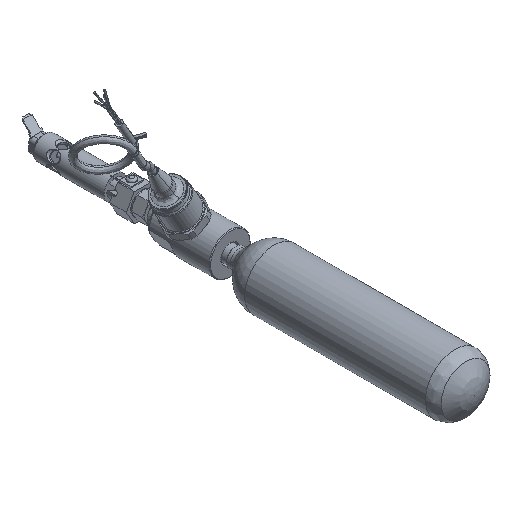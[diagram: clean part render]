
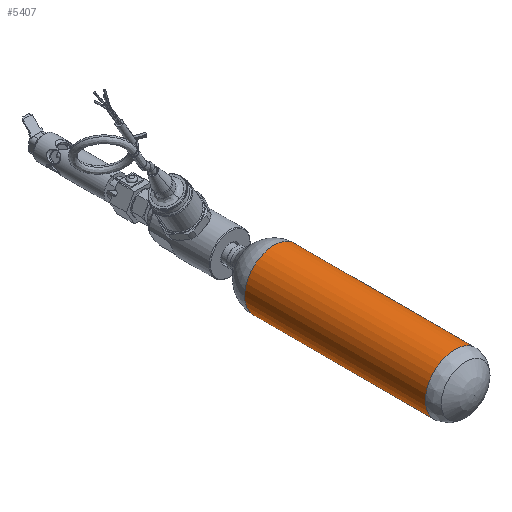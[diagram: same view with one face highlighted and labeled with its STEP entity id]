
A CAD part, isometric view. The second image highlights one B-rep face of the part: STEP entity #5407.
In plain terms, the highlighted cylindrical face has radius 20 mm (diameter 40 mm), a full revolution.
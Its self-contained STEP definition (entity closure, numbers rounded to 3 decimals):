
#524=CYLINDRICAL_SURFACE('',#5770,20.);
#715=CIRCLE('',#5768,20.);
#716=CIRCLE('',#5769,20.);
#717=CIRCLE('',#5771,20.);
#718=CIRCLE('',#5772,20.);
#1002=FACE_OUTER_BOUND('',#1316,.T.);
#1316=EDGE_LOOP('',(#4544,#4545,#4546,#4547,#4548,#4549));
#1592=LINE('',#17394,#1853);
#1853=VECTOR('',#6682,20.);
#2330=VERTEX_POINT('',#17387);
#2331=VERTEX_POINT('',#17389);
#2332=VERTEX_POINT('',#17393);
#2333=VERTEX_POINT('',#17395);
#3084=EDGE_CURVE('',#2330,#2331,#715,.T.);
#3085=EDGE_CURVE('',#2331,#2330,#716,.T.);
#3086=EDGE_CURVE('',#2331,#2332,#1592,.T.);
#3087=EDGE_CURVE('',#2332,#2333,#717,.T.);
#3088=EDGE_CURVE('',#2333,#2332,#718,.T.);
#4544=ORIENTED_EDGE('',*,*,#3085,.F.);
#4545=ORIENTED_EDGE('',*,*,#3086,.T.);
#4546=ORIENTED_EDGE('',*,*,#3087,.T.);
#4547=ORIENTED_EDGE('',*,*,#3088,.T.);
#4548=ORIENTED_EDGE('',*,*,#3086,.F.);
#4549=ORIENTED_EDGE('',*,*,#3084,.F.);
#5407=ADVANCED_FACE('',(#1002),#524,.T.);
#5768=AXIS2_PLACEMENT_3D('',#17390,#6676,#6677);
#5769=AXIS2_PLACEMENT_3D('',#17391,#6678,#6679);
#5770=AXIS2_PLACEMENT_3D('',#17392,#6680,#6681);
#5771=AXIS2_PLACEMENT_3D('',#17396,#6683,#6684);
#5772=AXIS2_PLACEMENT_3D('',#17397,#6685,#6686);
#6676=DIRECTION('center_axis',(0.,1.,0.));
#6677=DIRECTION('ref_axis',(1.,0.,0.));
#6678=DIRECTION('center_axis',(0.,1.,0.));
#6679=DIRECTION('ref_axis',(1.,0.,0.));
#6680=DIRECTION('center_axis',(0.,1.,0.));
#6681=DIRECTION('ref_axis',(-1.,0.,0.));
#6682=DIRECTION('',(0.,-1.,0.));
#6683=DIRECTION('center_axis',(0.,1.,0.));
#6684=DIRECTION('ref_axis',(1.,0.,0.));
#6685=DIRECTION('center_axis',(0.,1.,0.));
#6686=DIRECTION('ref_axis',(1.,0.,0.));
#17387=CARTESIAN_POINT('',(0.,137.224,20.));
#17389=CARTESIAN_POINT('',(20.,137.224,0.));
#17390=CARTESIAN_POINT('Origin',(0.,137.224,
0.));
#17391=CARTESIAN_POINT('Origin',(0.,137.224,
0.));
#17392=CARTESIAN_POINT('Origin',(0.,120.66,
0.));
#17393=CARTESIAN_POINT('',(20.,13.82,0.));
#17394=CARTESIAN_POINT('',(20.,120.66,0.));
#17395=CARTESIAN_POINT('',(0.,13.82,-20.));
#17396=CARTESIAN_POINT('Origin',(0.,13.82,
0.));
#17397=CARTESIAN_POINT('Origin',(0.,13.82,
0.));
